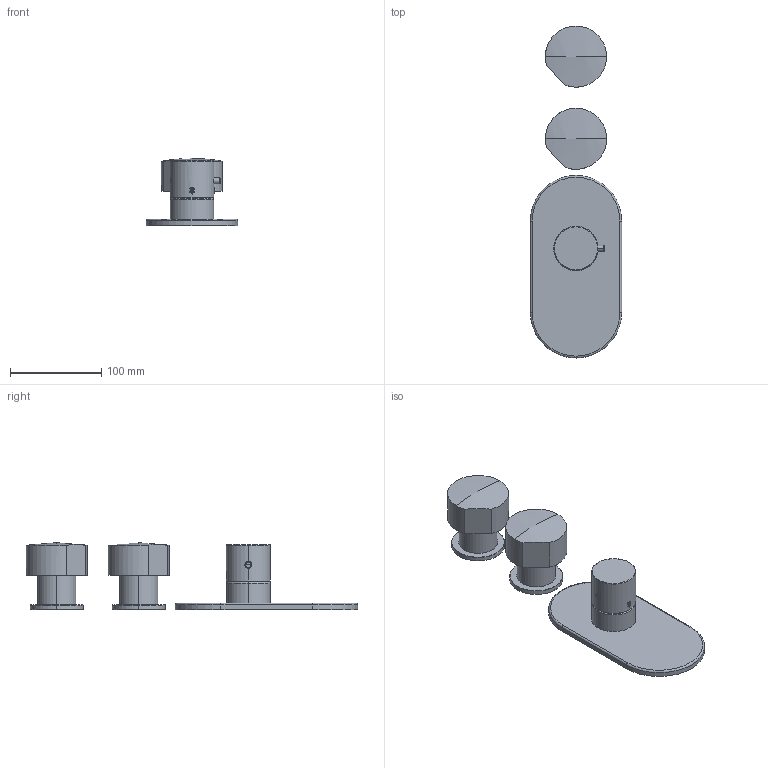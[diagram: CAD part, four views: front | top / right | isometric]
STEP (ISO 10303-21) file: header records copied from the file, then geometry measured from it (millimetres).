
FILE_DESCRIPTION((''),'2;1');
FILE_NAME('F3183X2_FILE_3D','2019-04-16T',('ivanv'),(''),'CREO PARAMETRIC BY PTC INC, 2016260','CREO PARAMETRIC BY PTC INC, 2016260','');
FILE_SCHEMA(('CONFIG_CONTROL_DESIGN'));
Products named in the file (1): F3183X2_FILE_3D
Bounding box: 100 x 363.5 x 73.5 mm (x, y, z)
Volume: 138284.4 mm3; surface area: 143813.3 mm2
Topology: 8 solids, 10 shells, 1190 faces, 3127 edges, 1994 vertices
Faces by surface type: plane 647, cylinder 255, cone 94, extrusion 79, torus 52, bspline 43, sphere 20
Entity records: 48069 total; most frequent: CARTESIAN_POINT 20185, ORIENTED_EDGE 6242, DIRECTION 5088, EDGE_CURVE 3121, VERTEX_POINT 1994, AXIS2_PLACEMENT_3D 1801, VECTOR 1486, LINE 1407
